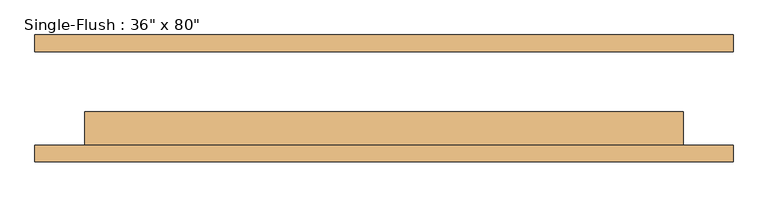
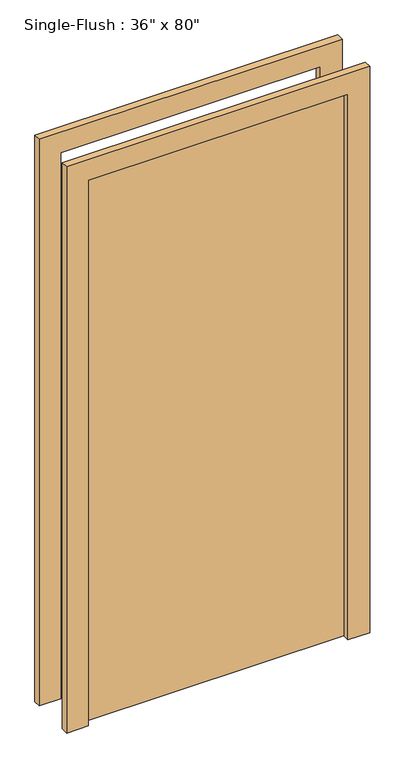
"""IFC4 building model written with IfcOpenShell, lengths in millimetres: door geometry."""

from ifc_helpers import new_model, si_unit, frame, origin, origin_with_axes, place, context, project, spatial, polyline, outline, extrude, source, transform, mapped, element, save


def door_e1308624(model_context):
    return source(origin(), model_context, "Body", "SweptSolid", [
        extrude(outline(polyline([(2108.2, -533.4), (0.0, -533.4), (0.0, -457.2), (2032.0, -457.2), (2032.0, 457.2), (0.0, 457.2), (0.0, 533.4), (2108.2, 533.4), (2108.2, -533.4)])), frame((0.0, -96.8375, 0.0), z_axis=(0.0, 1.0, 0.0), x_axis=(0.0, 0.0, 1.0)), (0.0, 0.0, 1.0), 25.4),
        extrude(outline(polyline([(2108.2, 533.4), (2108.2, -533.4), (0.0, -533.4), (0.0, -457.2), (2032.0, -457.2), (2032.0, 457.2), (0.0, 457.2), (0.0, 533.4), (2108.2, 533.4)])), frame((0.0, 71.4375, 0.0), z_axis=(0.0, 1.0, 0.0), x_axis=(0.0, 0.0, 1.0)), (0.0, 0.0, 1.0), 25.4),
        extrude(outline(polyline([(457.2, -20.6375), (457.2, -71.4375), (-457.2, -71.4375), (-457.2, -20.6375), (457.2, -20.6375)])), origin_with_axes(), (0.0, 0.0, 1.0), 2032.0),
    ])


if __name__ == "__main__":
    model = new_model("IFC4")
    model_context = context("Model", 3, world=origin())
    ifc_project = project(units=[si_unit("LENGTHUNIT", "METRE", prefix="MILLI")], contexts=[model_context])
    site = spatial("IfcSite", under=ifc_project)
    building = spatial("IfcBuilding", under=site)
    placement = place(None, origin())
    door_shape = door_e1308624(model_context)
    element("IfcDoor", 1, ObjectType="Single-Flush : 36\" x 80\"", at=placement, inside=building, context=model_context, shape_type="MappedRepresentation", body=[
        mapped(door_shape, transform((0.0, 0.0, 0.0), x_axis=(1.0, 0.0, 0.0), y_axis=(0.0, 1.0, 0.0), z_axis=(0.0, 0.0, 1.0))),
    ])
    save(model, "model.ifc")
